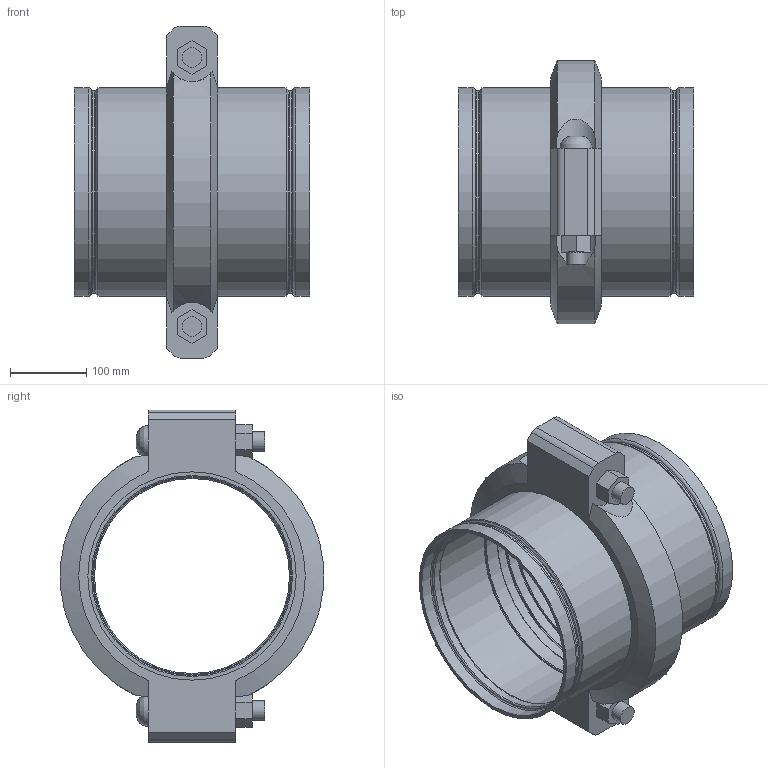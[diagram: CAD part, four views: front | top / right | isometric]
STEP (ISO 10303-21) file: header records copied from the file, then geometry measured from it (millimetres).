
FILE_DESCRIPTION(/* description */ ('VIC STRENGTHIN 100 EXPANSION JOINT 1 COUPLING NEUTRAL STYLE E155 (ST1)','CAx-IF Rec.Pracs.---Representation and Presentation of Product Manufacturing Information (PMI)---4.0---2014-10-13'),/* implementation_level */ '2;1');
FILE_NAME(/* name */ 'C:\Users\Vjadhav\AppData\Roaming\Autodesk\ApplicationPlugins\Victaulic.Temp\A726\Victaulic_SS-StrengThin 100_Expansion Joint_Neutral_1 Coupling_Style E155 (ST1)_1 Coup_Neut_10 (250).stp',/* time_stamp */ '2021-07-20T17:38:57+05:00',/* author */ ('kkamble'),/* organization */ ('Victaulic'),/* preprocessor_version */ 'ST-DEVELOPER v17.2',/* originating_system */ 'Autodesk Inventor 2019',/* authorisation */ '');
FILE_SCHEMA (('AP242_MANAGED_MODEL_BASED_3D_ENGINEERING_MIM_LF { 1 0 10303 442 1 1 4 }'));
Length unit declared in the file: inch
Products named in the file (3): E155-10.0; E494G-10.0; 077-10.0
Assembly tree (3 placements, depth 2):
  E155-10.0
    E494G-10.0  x2
    077-10.0
Bounding box: 308.1 x 344.9 x 435.1 mm (x, y, z)
Volume: 4230001.7 mm3; surface area: 832919.2 mm2
Topology: 3 solids, 5 shells, 131 faces, 375 edges, 272 vertices
Faces by surface type: plane 50, cylinder 39, torus 32, cone 8, bspline 2
Full cylindrical faces by diameter (mm): 25.4 x4, 27.432 x2, 255.626 x2, 258.724 x2, 263.5 x6, 264.16 x1, 265.176 x2, 268.275 x2, 273.05 x8
Entity records: 3573 total; most frequent: CARTESIAN_POINT 771, DIRECTION 591, ORIENTED_EDGE 520, EDGE_CURVE 260, AXIS2_PLACEMENT_3D 251, VERTEX_POINT 185, CIRCLE 151, EDGE_LOOP 117
